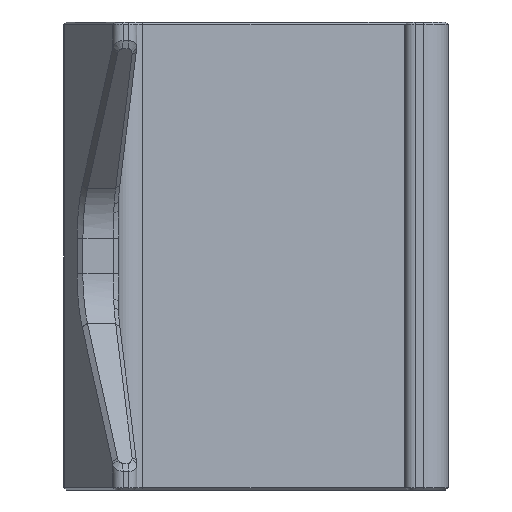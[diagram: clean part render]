
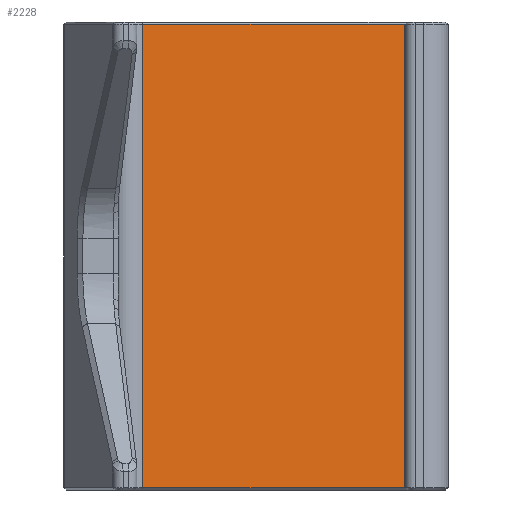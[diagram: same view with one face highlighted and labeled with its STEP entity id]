
A CAD part, front view. The second image highlights one B-rep face of the part: STEP entity #2228.
In plain terms, the highlighted planar face has unit normal (0.123, -0.992, 0).
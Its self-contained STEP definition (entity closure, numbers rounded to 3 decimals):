
#140=PLANE('',#2391);
#249=FACE_OUTER_BOUND('',#380,.T.);
#380=EDGE_LOOP('',(#1799,#1800,#1801,#1802));
#517=LINE('',#3736,#735);
#539=LINE('',#3803,#757);
#568=LINE('',#3898,#786);
#569=LINE('',#3899,#787);
#735=VECTOR('',#2643,10.);
#757=VECTOR('',#2711,10.);
#786=VECTOR('',#2780,10.);
#787=VECTOR('',#2781,10.);
#1024=VERTEX_POINT('',#3733);
#1025=VERTEX_POINT('',#3735);
#1043=VERTEX_POINT('',#3801);
#1073=VERTEX_POINT('',#3897);
#1269=EDGE_CURVE('',#1024,#1025,#517,.T.);
#1301=EDGE_CURVE('',#1043,#1024,#539,.T.);
#1342=EDGE_CURVE('',#1073,#1043,#568,.T.);
#1343=EDGE_CURVE('',#1025,#1073,#569,.T.);
#1799=ORIENTED_EDGE('',*,*,#1301,.F.);
#1800=ORIENTED_EDGE('',*,*,#1342,.F.);
#1801=ORIENTED_EDGE('',*,*,#1343,.F.);
#1802=ORIENTED_EDGE('',*,*,#1269,.F.);
#2228=ADVANCED_FACE('',(#249),#140,.T.);
#2391=AXIS2_PLACEMENT_3D('',#3896,#2778,#2779);
#2643=DIRECTION('',(0.,0.,1.));
#2711=DIRECTION('',(-0.992,-0.123,0.));
#2778=DIRECTION('center_axis',(0.123,-0.992,0.));
#2779=DIRECTION('ref_axis',(-0.992,-0.123,0.));
#2780=DIRECTION('',(0.,0.,-1.));
#2781=DIRECTION('',(0.992,0.123,0.));
#3733=CARTESIAN_POINT('',(6.107,37.044,0.5));
#3735=CARTESIAN_POINT('',(6.107,37.044,99.5));
#3736=CARTESIAN_POINT('',(6.107,37.044,100.));
#3801=CARTESIAN_POINT('',(62.44,44.025,0.5));
#3803=CARTESIAN_POINT('',(48.036,42.24,0.5));
#3896=CARTESIAN_POINT('Origin',(65.651,44.423,100.));
#3897=CARTESIAN_POINT('',(62.44,44.025,99.5));
#3898=CARTESIAN_POINT('',(62.44,44.025,100.));
#3899=CARTESIAN_POINT('',(48.036,42.24,99.5));
